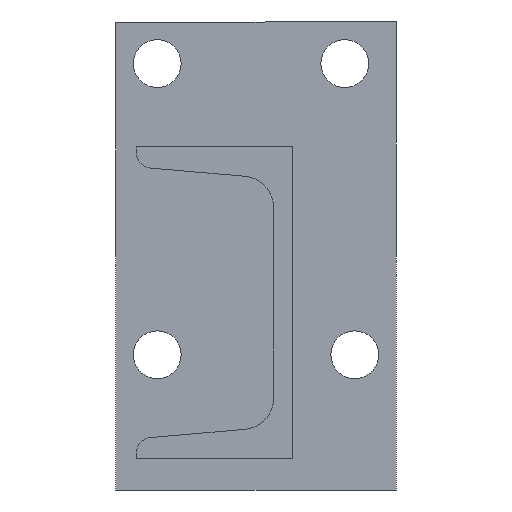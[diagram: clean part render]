
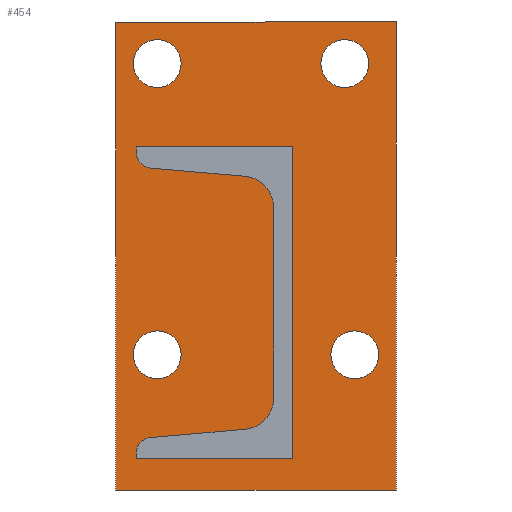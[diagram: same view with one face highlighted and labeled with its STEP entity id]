
A CAD part, front view. The second image highlights one B-rep face of the part: STEP entity #454.
In plain terms, the highlighted planar face has unit normal (0, -1, 0).
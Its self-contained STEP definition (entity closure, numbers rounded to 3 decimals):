
#19=FACE_BOUND('',#87,.T.);
#20=FACE_BOUND('',#88,.T.);
#21=FACE_BOUND('',#89,.T.);
#22=FACE_BOUND('',#90,.T.);
#58=FACE_OUTER_BOUND('',#86,.T.);
#86=EDGE_LOOP('',(#395,#396,#397,#398));
#87=EDGE_LOOP('',(#399));
#88=EDGE_LOOP('',(#400));
#89=EDGE_LOOP('',(#401));
#90=EDGE_LOOP('',(#402));
#103=CIRCLE('',#498,11.5);
#105=CIRCLE('',#501,11.5);
#107=CIRCLE('',#504,11.5);
#109=CIRCLE('',#507,11.5);
#147=LINE('',#758,#191);
#148=LINE('',#760,#192);
#149=LINE('',#762,#193);
#150=LINE('',#763,#194);
#191=VECTOR('',#628,10.);
#192=VECTOR('',#629,10.);
#193=VECTOR('',#630,10.);
#194=VECTOR('',#631,10.);
#223=VERTEX_POINT('',#723);
#225=VERTEX_POINT('',#729);
#227=VERTEX_POINT('',#735);
#229=VERTEX_POINT('',#741);
#235=VERTEX_POINT('',#756);
#236=VERTEX_POINT('',#757);
#237=VERTEX_POINT('',#759);
#238=VERTEX_POINT('',#761);
#275=EDGE_CURVE('',#223,#223,#103,.T.);
#278=EDGE_CURVE('',#225,#225,#105,.T.);
#281=EDGE_CURVE('',#227,#227,#107,.T.);
#284=EDGE_CURVE('',#229,#229,#109,.T.);
#291=EDGE_CURVE('',#235,#236,#147,.T.);
#292=EDGE_CURVE('',#236,#237,#148,.T.);
#293=EDGE_CURVE('',#237,#238,#149,.T.);
#294=EDGE_CURVE('',#238,#235,#150,.T.);
#395=ORIENTED_EDGE('',*,*,#291,.T.);
#396=ORIENTED_EDGE('',*,*,#292,.T.);
#397=ORIENTED_EDGE('',*,*,#293,.T.);
#398=ORIENTED_EDGE('',*,*,#294,.T.);
#399=ORIENTED_EDGE('',*,*,#275,.T.);
#400=ORIENTED_EDGE('',*,*,#278,.T.);
#401=ORIENTED_EDGE('',*,*,#281,.T.);
#402=ORIENTED_EDGE('',*,*,#284,.T.);
#430=PLANE('',#510);
#454=ADVANCED_FACE('',(#58,#19,#20,#21,#22),#430,.F.);
#498=AXIS2_PLACEMENT_3D('',#724,#594,#595);
#501=AXIS2_PLACEMENT_3D('',#730,#601,#602);
#504=AXIS2_PLACEMENT_3D('',#736,#608,#609);
#507=AXIS2_PLACEMENT_3D('',#742,#615,#616);
#510=AXIS2_PLACEMENT_3D('',#755,#626,#627);
#594=DIRECTION('center_axis',(0.,1.,0.));
#595=DIRECTION('ref_axis',(1.,0.,0.));
#601=DIRECTION('center_axis',(0.,1.,0.));
#602=DIRECTION('ref_axis',(1.,0.,0.));
#608=DIRECTION('center_axis',(0.,1.,0.));
#609=DIRECTION('ref_axis',(1.,0.,0.));
#615=DIRECTION('center_axis',(0.,1.,0.));
#616=DIRECTION('ref_axis',(1.,0.,0.));
#626=DIRECTION('center_axis',(0.,1.,0.));
#627=DIRECTION('ref_axis',(0.,0.,-1.));
#628=DIRECTION('',(1.,0.,0.));
#629=DIRECTION('',(0.,0.,1.));
#630=DIRECTION('',(-1.,0.,0.));
#631=DIRECTION('',(0.,0.,-1.));
#723=CARTESIAN_POINT('',(98.68,0.,-20.));
#724=CARTESIAN_POINT('Origin',(110.18,0.,-20.));
#729=CARTESIAN_POINT('',(103.5,0.,-160.));
#730=CARTESIAN_POINT('Origin',(115.,0.,-160.));
#735=CARTESIAN_POINT('',(8.5,0.,-20.));
#736=CARTESIAN_POINT('Origin',(20.,0.,-20.));
#741=CARTESIAN_POINT('',(8.5,0.,-160.));
#742=CARTESIAN_POINT('Origin',(20.,0.,-160.));
#755=CARTESIAN_POINT('Origin',(67.5,0.,-112.5));
#756=CARTESIAN_POINT('',(0.,0.,-225.));
#757=CARTESIAN_POINT('',(135.,0.,-225.));
#758=CARTESIAN_POINT('',(67.5,0.,-225.));
#759=CARTESIAN_POINT('',(135.,0.,0.));
#760=CARTESIAN_POINT('',(135.,0.,-112.5));
#761=CARTESIAN_POINT('',(0.,0.,0.));
#762=CARTESIAN_POINT('',(67.5,0.,0.));
#763=CARTESIAN_POINT('',(0.,0.,-112.5));
